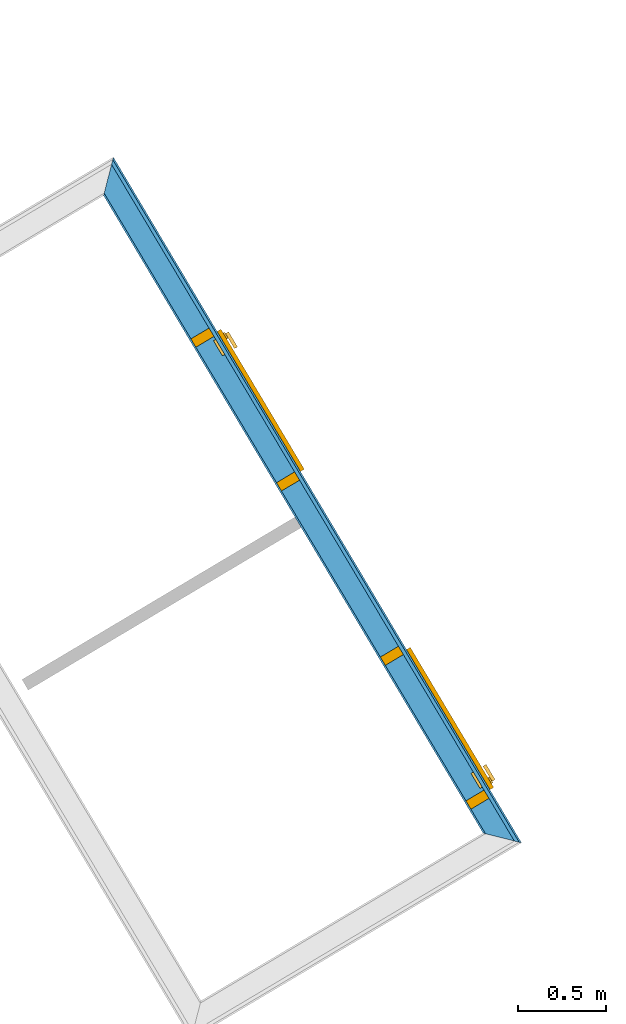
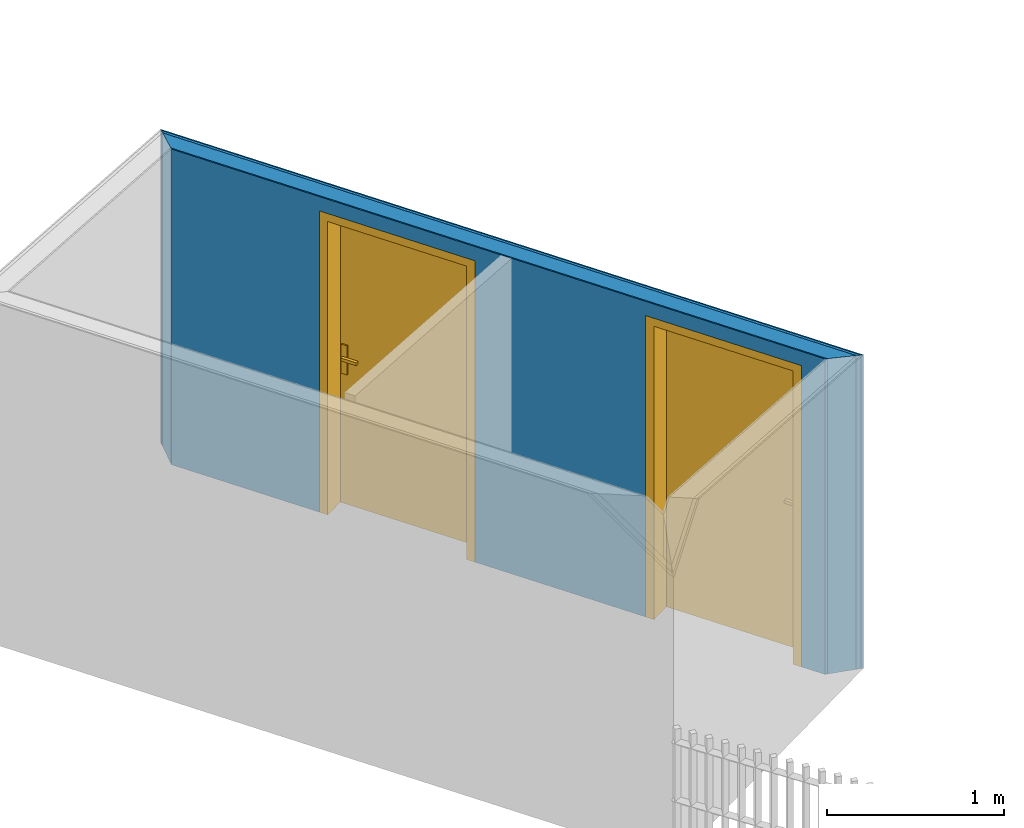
# One storey, part 115 of 195: 4 building element parts, 2 doors, 2 openings, 1 element without a shape of its own.
"""IFC2X3 building model written with IfcOpenShell, lengths in metres."""

from ifc_helpers import new_model, entity, si_unit, converted_unit, derived_unit, money_unit, direction, frame, origin_with_axes, origin_2d_with_axis, place, context, subcontext, project, spatial, polyline, rectangle, outline, extrude, boolean, faceted_brep, source, transform, mapped, material, type_object, element, fill, aggregate, save


model = new_model("IFC2X3")

# Units and contexts
model_context = context("Model", 3, precision=1e-05, world=origin_with_axes(), true_north=direction((0.0, 1.0)))
body_context = subcontext(model_context, "Body", "Model", "MODEL_VIEW")
ifc_project = project(units=[si_unit("LENGTHUNIT", "METRE"), si_unit("AREAUNIT", "SQUARE_METRE"), si_unit("VOLUMEUNIT", "CUBIC_METRE"), converted_unit("PLANEANGLEUNIT", "DEGREE", entity("IfcPlaneAngleMeasure", 0.0174532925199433), si_unit("PLANEANGLEUNIT", "RADIAN"), dimensions=[0, 0, 0, 0, 0, 0, 0]), money_unit("CHF"), converted_unit("TIMEUNIT", "Year", entity("IfcTimeMeasure", 31557600.0), si_unit("TIMEUNIT", "SECOND"), dimensions=[0, 0, 1, 0, 0, 0, 0]), si_unit("MASSUNIT", "GRAM", prefix="KILO"), si_unit("THERMODYNAMICTEMPERATUREUNIT", "DEGREE_CELSIUS"), si_unit("LUMINOUSINTENSITYUNIT", "LUMEN"), si_unit("ENERGYUNIT", "JOULE", prefix="MEGA"), derived_unit("THERMALCONDUCTANCEUNIT", [(si_unit("POWERUNIT", "WATT"), 1), (si_unit("LENGTHUNIT", "METRE"), -1), (si_unit("THERMODYNAMICTEMPERATUREUNIT", "KELVIN"), -1)]), derived_unit("SPECIFICHEATCAPACITYUNIT", [(si_unit("ENERGYUNIT", "JOULE"), 1), (si_unit("MASSUNIT", "GRAM", prefix="KILO"), -1), (si_unit("THERMODYNAMICTEMPERATUREUNIT", "KELVIN"), -1)]), derived_unit("MASSDENSITYUNIT", [(si_unit("MASSUNIT", "GRAM", prefix="KILO"), 1), (si_unit("VOLUMEUNIT", "CUBIC_METRE"), -1)])], contexts=[model_context])

# Site, building, storey
site_placement = place(None, origin_with_axes())
site = spatial("IfcSite", under=ifc_project, at=site_placement, Name="Site", CompositionType="ELEMENT")
building_placement = place(site_placement, origin_with_axes())
building = spatial("IfcBuilding", under=site, at=building_placement, Name="Bâtiment", CompositionType="ELEMENT")
storey_placement = place(building_placement, origin_with_axes())
storey = spatial("IfcBuildingStorey", under=building, at=storey_placement, Name="rdc", CompositionType="ELEMENT", Elevation=0.0)

# Door
door_style = type_object("IfcDoorStyle", Name="Porte_1v", ConstructionType="NOTDEFINED", OperationType="NOTDEFINED", ParameterTakesPrecedence=False, Sizeable=False)
shared_shape_1 = source(origin_with_axes(), body_context, "Body", "Brep", [
    faceted_brep([(0.505, 0.0, 0.0), (0.465, 0.0, 0.0), (0.465, 0.0, 2.04), (-0.465, 0.0, 2.04), (-0.465, 0.0, 0.0), (-0.505, 0.0, 0.0), (-0.505, 0.0, 2.08), (0.505, 0.0, 2.08), (0.505, -0.16, 0.0), (0.45, -0.16, 0.0), (0.45, -0.015, 0.0), (0.465, -0.015, 0.0), (0.465, -0.015, 2.04), (-0.465, -0.015, 2.04), (-0.465, -0.015, 0.0), (-0.45, -0.015, 0.0), (-0.45, -0.16, 0.0), (-0.505, -0.16, 0.0), (-0.505, -0.16, 2.08), (0.505, -0.16, 2.08), (-0.45, -0.16, 2.025), (0.45, -0.16, 2.025), (0.45, -0.015, 2.025), (-0.45, -0.015, 2.025)], [[[0, 1, 2, 3, 4, 5, 6, 7]], [[0, 8, 9, 10, 11, 1]], [[1, 11, 12, 2]], [[2, 12, 13, 3]], [[3, 13, 14, 4]], [[5, 4, 14, 15, 16, 17]], [[18, 6, 5, 17]], [[19, 7, 6, 18]], [[8, 0, 7, 19]], [[9, 8, 19, 18, 17, 16, 20, 21]], [[10, 9, 21, 22]], [[11, 10, 22, 23, 15, 14, 13, 12]], [[23, 20, 16, 15]], [[22, 21, 20, 23]]]),
    faceted_brep([(-0.4, -0.015, 0.9), (-0.44, -0.015, 0.9), (-0.44, -0.015, 1.1), (-0.4, -0.015, 1.1), (-0.4, -0.025, 0.9), (-0.44, -0.025, 0.9), (-0.44, -0.025, 1.1), (-0.4, -0.025, 1.1)], [[[0, 1, 2, 3]], [[1, 0, 4, 5]], [[2, 1, 5, 6]], [[3, 2, 6, 7]], [[0, 3, 7, 4]], [[5, 4, 7, 6]]]),
    faceted_brep([(-0.33, -0.025, 1.0), (-0.43, -0.025, 1.0), (-0.43, -0.025, 1.02), (-0.33, -0.025, 1.02), (-0.33, -0.045, 1.0), (-0.43, -0.045, 1.0), (-0.43, -0.045, 1.02), (-0.33, -0.045, 1.02)], [[[0, 1, 2, 3]], [[1, 0, 4, 5]], [[2, 1, 5, 6]], [[3, 2, 6, 7]], [[0, 3, 7, 4]], [[5, 4, 7, 6]]]),
    faceted_brep([(-0.4, 0.035, 0.9), (-0.44, 0.035, 0.9), (-0.44, 0.035, 1.1), (-0.4, 0.035, 1.1), (-0.4, 0.025, 0.9), (-0.44, 0.025, 0.9), (-0.44, 0.025, 1.1), (-0.4, 0.025, 1.1)], [[[0, 1, 2, 3]], [[1, 0, 4, 5]], [[2, 1, 5, 6]], [[3, 2, 6, 7]], [[0, 3, 7, 4]], [[5, 4, 7, 6]]]),
    faceted_brep([(-0.33, 0.05500000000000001, 1.0), (-0.43, 0.05500000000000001, 1.0), (-0.43, 0.05500000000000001, 1.02), (-0.33, 0.05500000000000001, 1.02), (-0.33, 0.035, 1.0), (-0.43, 0.035, 1.0), (-0.43, 0.035, 1.02), (-0.33, 0.035, 1.02)], [[[0, 1, 2, 3]], [[1, 0, 4, 5]], [[2, 1, 5, 6]], [[3, 2, 6, 7]], [[0, 3, 7, 4]], [[5, 4, 7, 6]]]),
    faceted_brep([(-0.465, 0.025, 0.0), (0.465, 0.025, 0.0), (0.465, -0.015, 0.0), (-0.465, -0.015, 0.0), (-0.465, 0.025, 2.04), (0.465, 0.025, 2.04), (0.465, -0.015, 2.04), (-0.465, -0.015, 2.04)], [[[0, 1, 2, 3]], [[0, 4, 5, 1]], [[1, 5, 6, 2]], [[3, 2, 6, 7]], [[4, 0, 3, 7]], [[5, 4, 7, 6]]]),
])
wall_placement = place(storey_placement, frame((9554.376120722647, -1046.530419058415, 57.7), z_axis=(0.0, 0.0, 1.0), x_axis=(0.5115364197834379, -0.859261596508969, 0.0)))
opening_1_placement = place(wall_placement, frame((1.622741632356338, 0.0, 0.0), z_axis=(0.0, 0.0, 1.0), x_axis=(1.0, 0.0, 0.0)))
door_1_placement = place(opening_1_placement, frame((-0.4649999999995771, 0.0, 0.0), z_axis=(0.0, 0.0, 1.0), x_axis=(1.0, 0.0, 0.0)))
door_1 = element("IfcDoor", 1, at=door_1_placement, inside=storey, type_object=door_style, Name="Por-300", OverallHeight=2.04, OverallWidth=0.93, context=body_context, shape_type="MappedRepresentation", body=[
    mapped(shared_shape_1, transform((0.4649999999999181, 0.0, 0.0))),
])

shared_shape_2 = source(origin_with_axes(), body_context, "Body", "Brep", [
    faceted_brep([(-0.505, 0.0, 0.0), (-0.505, 0.0, 2.08), (0.505, 0.0, 2.08), (0.505, 0.0, 0.0), (0.465, 0.0, 0.0), (0.465, 0.0, 2.04), (-0.465, 0.0, 2.04), (-0.465, 0.0, 0.0), (-0.505, -0.16, 0.0), (-0.505, -0.16, 2.08), (0.505, -0.16, 2.08), (0.505, -0.16, 0.0), (0.45, -0.16, 0.0), (0.45, -0.015, 0.0), (0.465, -0.015, 0.0), (0.465, -0.015, 2.04), (-0.465, -0.015, 2.04), (-0.465, -0.015, 0.0), (-0.45, -0.015, 0.0), (-0.45, -0.16, 0.0), (-0.45, -0.16, 2.025), (0.45, -0.16, 2.025), (0.45, -0.015, 2.025), (-0.45, -0.015, 2.025)], [[[0, 1, 2, 3, 4, 5, 6, 7]], [[8, 9, 1, 0]], [[9, 10, 2, 1]], [[10, 11, 3, 2]], [[3, 11, 12, 13, 14, 4]], [[5, 4, 14, 15]], [[6, 5, 15, 16]], [[7, 6, 16, 17]], [[0, 7, 17, 18, 19, 8]], [[19, 20, 21, 12, 11, 10, 9, 8]], [[22, 13, 12, 21]], [[17, 16, 15, 14, 13, 22, 23, 18]], [[18, 23, 20, 19]], [[23, 22, 21, 20]]]),
    faceted_brep([(0.4, -0.015, 0.9), (0.4, -0.015, 1.1), (0.44, -0.015, 1.1), (0.44, -0.015, 0.9), (0.4, -0.025, 0.9), (0.4, -0.025, 1.1), (0.44, -0.025, 1.1), (0.44, -0.025, 0.9)], [[[0, 1, 2, 3]], [[0, 4, 5, 1]], [[1, 5, 6, 2]], [[2, 6, 7, 3]], [[3, 7, 4, 0]], [[7, 6, 5, 4]]]),
    faceted_brep([(0.33, -0.025, 1.0), (0.33, -0.025, 1.02), (0.43, -0.025, 1.02), (0.43, -0.025, 1.0), (0.33, -0.045, 1.0), (0.33, -0.045, 1.02), (0.43, -0.045, 1.02), (0.43, -0.045, 1.0)], [[[0, 1, 2, 3]], [[0, 4, 5, 1]], [[1, 5, 6, 2]], [[2, 6, 7, 3]], [[3, 7, 4, 0]], [[7, 6, 5, 4]]]),
    faceted_brep([(0.4, 0.035, 0.9), (0.4, 0.035, 1.1), (0.44, 0.035, 1.1), (0.44, 0.035, 0.9), (0.4, 0.025, 0.9), (0.4, 0.025, 1.1), (0.44, 0.025, 1.1), (0.44, 0.025, 0.9)], [[[0, 1, 2, 3]], [[0, 4, 5, 1]], [[1, 5, 6, 2]], [[2, 6, 7, 3]], [[3, 7, 4, 0]], [[7, 6, 5, 4]]]),
    faceted_brep([(0.33, 0.05500000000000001, 1.0), (0.33, 0.05500000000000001, 1.02), (0.43, 0.05500000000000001, 1.02), (0.43, 0.05500000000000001, 1.0), (0.33, 0.035, 1.0), (0.33, 0.035, 1.02), (0.43, 0.035, 1.02), (0.43, 0.035, 1.0)], [[[0, 1, 2, 3]], [[0, 4, 5, 1]], [[1, 5, 6, 2]], [[2, 6, 7, 3]], [[3, 7, 4, 0]], [[7, 6, 5, 4]]]),
    faceted_brep([(0.465, 0.025, 0.0), (0.465, -0.015, 0.0), (-0.465, -0.015, 0.0), (-0.465, 0.025, 0.0), (0.465, 0.025, 2.04), (0.465, -0.015, 2.04), (-0.465, -0.015, 2.04), (-0.465, 0.025, 2.04)], [[[0, 1, 2, 3]], [[4, 5, 1, 0]], [[1, 5, 6, 2]], [[3, 2, 6, 7]], [[0, 3, 7, 4]], [[7, 6, 5, 4]]]),
])
opening_2_placement = place(wall_placement, frame((3.735890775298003, 0.0, 0.0), z_axis=(0.0, 0.0, 1.0), x_axis=(1.0, 0.0, 0.0)))
door_2_placement = place(opening_2_placement, frame((-0.4650000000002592, 0.0, 0.0), z_axis=(0.0, 0.0, 1.0), x_axis=(1.0, 0.0, 0.0)))
door_2 = element("IfcDoor", 2, at=door_2_placement, inside=storey, type_object=door_style, Name="Por-300", OverallHeight=2.04, OverallWidth=0.93, context=body_context, shape_type="MappedRepresentation", body=[
    mapped(shared_shape_2, transform((0.4650000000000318, 0.0, 0.0))),
])

# Wall, opening
wall_type = type_object("IfcWallType", Name="1/Ossatur bois 160   non isol 160", PredefinedType="NOTDEFINED")
wall = element("IfcWall", 3, at=wall_placement, inside=storey, type_object=wall_type, Name="Mur-110")
opening_1 = element("IfcOpeningElement", 4, at=opening_1_placement, cuts=wall, Name="Por-300", context=body_context, shape_type="SweptSolid", body=[
    extrude(rectangle(XDim=1.01000001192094, YDim=2.079999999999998, at=origin_2d_with_axis()), frame((5.960600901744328e-09, -0.1599999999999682, 1.039999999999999), z_axis=(0.0, 1.0, 0.0), x_axis=(1.0, 0.0, 0.0)), (0.0, 0.0, 1.0), 0.32),
])

fill(opening_1, door_1)

# Opening
opening_2 = element("IfcOpeningElement", 5, at=opening_2_placement, cuts=wall, Name="Por-300", context=body_context, shape_type="SweptSolid", body=[
    extrude(rectangle(XDim=1.01000001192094, YDim=2.079999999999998, at=origin_2d_with_axis()), frame((-5.960600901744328e-09, -0.1599999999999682, 1.039999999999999), z_axis=(0.0, -1.0, 0.0), x_axis=(-1.0, 0.0, 0.0)), (0.0, 0.0, -1.0), 0.32),
])

fill(opening_2, door_2)

# Building element part
ifc_material_1 = material(Name="Sans Trame 296962763")
building_element_part_1_placement = place(wall_placement, origin_with_axes())
building_element_part_1 = element("IfcBuildingElementPart", 6, at=building_element_part_1_placement, material=ifc_material_1, Name="Sans Trame 296962763", context=body_context, shape_type="CSG", body=[
    boolean("DIFFERENCE", boolean("DIFFERENCE", boolean("DIFFERENCE", boolean("DIFFERENCE", extrude(outline(polyline([(0.0, -0.1599999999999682), (4.554068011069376, -0.1600000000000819), (4.554068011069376, -0.1499999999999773), (0.0, -0.1499999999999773), (0.0, -0.1599999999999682)])), origin_with_axes(), (0.0, 0.0, 1.0), 2.75), faceted_brep([(0.1499999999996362, -0.1499999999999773, 2.177693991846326), (0.1499999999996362, -0.1500000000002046, 0.0), (0.0, -0.1499999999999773, 0.0), (0.0, -0.1499999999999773, 2.75), (4.554068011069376, -0.1500000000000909, 2.75), (4.554068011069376, -0.1500000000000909, 0.0), (4.403933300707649, -0.1500000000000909, 0.0), (4.403933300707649, -0.1500000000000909, 2.177359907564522), (0.1599999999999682, -0.1600000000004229, 2.178568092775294), (0.1599999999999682, -0.1600000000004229, 0.0), (0.0, -0.1599999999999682, 0.0), (0.0, -0.1599999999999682, 2.75), (4.554068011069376, -0.1600000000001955, 2.75), (4.554068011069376, -0.1600000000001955, 0.0), (4.393924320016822, -0.1600000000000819, 0.0), (4.393924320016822, -0.1600000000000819, 2.178235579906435)], [[[0, 1, 2, 3, 4, 5, 6, 7]], [[1, 0, 8, 9]], [[1, 9, 10, 2]], [[3, 2, 10, 11]], [[3, 11, 12, 4]], [[12, 13, 5, 4]], [[14, 6, 5, 13]], [[7, 6, 14, 15]], [[0, 7, 15, 8]], [[15, 14, 13, 12, 11, 10, 9, 8]]])), faceted_brep([(0.02999999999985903, -0.02999999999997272, 2.167204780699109), (0.02999999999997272, -0.0300000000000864, 0.0), (0.0, -0.02999999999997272, 0.0), (0.0, -0.02999999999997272, 2.75), (4.554068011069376, -0.02999999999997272, 2.75), (4.554068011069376, -0.02999999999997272, 0.0), (4.524041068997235, -0.02999999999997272, 0.0), (4.524041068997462, -0.02999999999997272, 2.166851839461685), (0.1499999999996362, -0.1500000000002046, 2.177693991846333), (0.1499999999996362, -0.1500000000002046, 0.0), (0.0, -0.1499999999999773, 0.0), (0.0, -0.1499999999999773, 2.75), (4.554068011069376, -0.1500000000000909, 2.75), (4.554068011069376, -0.1500000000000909, 0.0), (4.403933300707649, -0.1499999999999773, 0.0), (4.403933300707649, -0.1500000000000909, 2.177359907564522)], [[[0, 1, 2, 3, 4, 5, 6, 7]], [[1, 0, 8, 9]], [[1, 9, 10, 2]], [[3, 2, 10, 11]], [[3, 11, 12, 4]], [[12, 13, 5, 4]], [[14, 6, 5, 13]], [[7, 6, 14, 15]], [[0, 7, 15, 8]], [[15, 14, 13, 12, 11, 10, 9, 8]]])), faceted_brep([(0.009999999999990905, -0.01000000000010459, 2.165456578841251), (0.009999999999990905, -0.01000000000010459, 0.0), (0.0, -0.01000000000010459, 0.0), (0.0, -0.01000000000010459, 2.75), (4.554068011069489, -0.01000000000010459, 2.75), (4.554068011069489, -0.01000000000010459, 0.0), (4.544059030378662, -0.009999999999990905, 0.0), (4.544059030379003, -0.009999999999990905, 2.165100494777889), (0.02999999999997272, -0.0300000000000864, 2.167204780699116), (0.02999999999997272, -0.0300000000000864, 0.0), (0.0, -0.02999999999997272, 0.0), (0.0, -0.02999999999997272, 2.75), (4.554068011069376, -0.02999999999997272, 2.75), (4.554068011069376, -0.02999999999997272, 0.0), (4.524041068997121, -0.02999999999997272, 0.0), (4.524041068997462, -0.0300000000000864, 2.166851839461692)], [[[0, 1, 2, 3, 4, 5, 6, 7]], [[1, 0, 8, 9]], [[1, 9, 10, 2]], [[3, 2, 10, 11]], [[3, 11, 12, 4]], [[12, 13, 5, 4]], [[14, 6, 5, 13]], [[7, 6, 14, 15]], [[0, 7, 15, 8]], [[15, 14, 13, 12, 11, 10, 9, 8]]])), faceted_brep([(4.554068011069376, 0.0, 0.0), (4.554068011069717, 0.0, 2.164224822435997), (4.554068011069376, 0.0, 2.75), (4.554068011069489, -0.01000000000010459, 2.75), (4.554068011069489, -0.01000000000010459, 0.0), (4.544059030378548, -0.01000000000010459, 0.0), (4.544059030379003, -0.01000000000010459, 2.165100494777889), (0.0, 0.0, 2.164582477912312), (0.0, 0.0, 2.75), (0.0, -0.01000000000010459, 2.75), (0.0, -0.01000000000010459, 0.0), (0.009999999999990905, -0.01000000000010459, 0.0), (0.009999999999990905, -0.01000000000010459, 2.165456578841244), (0.0, 0.0, 0.0)], [[[0, 1, 2, 3, 4]], [[1, 0, 5, 6]], [[1, 7, 8, 2]], [[8, 9, 3, 2]], [[6, 5, 4, 3, 9, 10, 11, 12]], [[5, 0, 4]], [[7, 1, 6, 12]], [[7, 13, 10, 9, 8]], [[13, 11, 10]], [[13, 7, 12, 11]]])),
])

ifc_material_2 = material(Name="Lame d'air 275581439")
building_element_part_2_placement = place(wall_placement, origin_with_axes())
building_element_part_2 = element("IfcBuildingElementPart", 7, at=building_element_part_2_placement, material=ifc_material_2, Name="Lame d'air 275581439", context=body_context, shape_type="CSG", body=[
    boolean("DIFFERENCE", boolean("DIFFERENCE", boolean("DIFFERENCE", boolean("DIFFERENCE", extrude(outline(polyline([(0.0, -0.1499999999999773), (4.554068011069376, -0.1499999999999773), (4.554068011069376, -0.02999999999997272), (0.0, -0.02999999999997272), (0.0, -0.1499999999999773)])), origin_with_axes(), (0.0, 0.0, 1.0), 2.75), faceted_brep([(0.1499999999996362, -0.1499999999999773, 2.177693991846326), (0.1499999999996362, -0.1500000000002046, 0.0), (0.0, -0.1499999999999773, 0.0), (0.0, -0.1499999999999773, 2.75), (4.554068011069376, -0.1500000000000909, 2.75), (4.554068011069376, -0.1500000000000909, 0.0), (4.403933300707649, -0.1500000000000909, 0.0), (4.403933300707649, -0.1500000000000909, 2.177359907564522), (0.1599999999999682, -0.1600000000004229, 2.178568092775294), (0.1599999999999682, -0.1600000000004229, 0.0), (0.0, -0.1599999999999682, 0.0), (0.0, -0.1599999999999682, 2.75), (4.554068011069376, -0.1600000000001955, 2.75), (4.554068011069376, -0.1600000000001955, 0.0), (4.393924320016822, -0.1600000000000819, 0.0), (4.393924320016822, -0.1600000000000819, 2.178235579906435)], [[[0, 1, 2, 3, 4, 5, 6, 7]], [[1, 0, 8, 9]], [[1, 9, 10, 2]], [[3, 2, 10, 11]], [[3, 11, 12, 4]], [[12, 13, 5, 4]], [[14, 6, 5, 13]], [[7, 6, 14, 15]], [[0, 7, 15, 8]], [[15, 14, 13, 12, 11, 10, 9, 8]]])), faceted_brep([(0.02999999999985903, -0.02999999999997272, 2.167204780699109), (0.02999999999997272, -0.0300000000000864, 0.0), (0.0, -0.02999999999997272, 0.0), (0.0, -0.02999999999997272, 2.75), (4.554068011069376, -0.02999999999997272, 2.75), (4.554068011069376, -0.02999999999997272, 0.0), (4.524041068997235, -0.02999999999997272, 0.0), (4.524041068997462, -0.02999999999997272, 2.166851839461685), (0.1499999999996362, -0.1500000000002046, 2.177693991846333), (0.1499999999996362, -0.1500000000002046, 0.0), (0.0, -0.1499999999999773, 0.0), (0.0, -0.1499999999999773, 2.75), (4.554068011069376, -0.1500000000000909, 2.75), (4.554068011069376, -0.1500000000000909, 0.0), (4.403933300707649, -0.1499999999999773, 0.0), (4.403933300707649, -0.1500000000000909, 2.177359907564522)], [[[0, 1, 2, 3, 4, 5, 6, 7]], [[1, 0, 8, 9]], [[1, 9, 10, 2]], [[3, 2, 10, 11]], [[3, 11, 12, 4]], [[12, 13, 5, 4]], [[14, 6, 5, 13]], [[7, 6, 14, 15]], [[0, 7, 15, 8]], [[15, 14, 13, 12, 11, 10, 9, 8]]])), faceted_brep([(0.009999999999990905, -0.01000000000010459, 2.165456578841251), (0.009999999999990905, -0.01000000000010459, 0.0), (0.0, -0.01000000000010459, 0.0), (0.0, -0.01000000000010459, 2.75), (4.554068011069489, -0.01000000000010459, 2.75), (4.554068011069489, -0.01000000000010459, 0.0), (4.544059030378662, -0.009999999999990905, 0.0), (4.544059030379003, -0.009999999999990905, 2.165100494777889), (0.02999999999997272, -0.0300000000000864, 2.167204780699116), (0.02999999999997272, -0.0300000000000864, 0.0), (0.0, -0.02999999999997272, 0.0), (0.0, -0.02999999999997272, 2.75), (4.554068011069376, -0.02999999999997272, 2.75), (4.554068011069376, -0.02999999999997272, 0.0), (4.524041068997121, -0.02999999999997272, 0.0), (4.524041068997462, -0.0300000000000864, 2.166851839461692)], [[[0, 1, 2, 3, 4, 5, 6, 7]], [[1, 0, 8, 9]], [[1, 9, 10, 2]], [[3, 2, 10, 11]], [[3, 11, 12, 4]], [[12, 13, 5, 4]], [[14, 6, 5, 13]], [[7, 6, 14, 15]], [[0, 7, 15, 8]], [[15, 14, 13, 12, 11, 10, 9, 8]]])), faceted_brep([(4.554068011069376, 0.0, 0.0), (4.554068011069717, 0.0, 2.164224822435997), (4.554068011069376, 0.0, 2.75), (4.554068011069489, -0.01000000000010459, 2.75), (4.554068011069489, -0.01000000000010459, 0.0), (4.544059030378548, -0.01000000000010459, 0.0), (4.544059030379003, -0.01000000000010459, 2.165100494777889), (0.0, 0.0, 2.164582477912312), (0.0, 0.0, 2.75), (0.0, -0.01000000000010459, 2.75), (0.0, -0.01000000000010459, 0.0), (0.009999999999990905, -0.01000000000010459, 0.0), (0.009999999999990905, -0.01000000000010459, 2.165456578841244), (0.0, 0.0, 0.0)], [[[0, 1, 2, 3, 4]], [[1, 0, 5, 6]], [[1, 7, 8, 2]], [[8, 9, 3, 2]], [[6, 5, 4, 3, 9, 10, 11, 12]], [[5, 0, 4]], [[7, 1, 6, 12]], [[7, 13, 10, 9, 8]], [[13, 11, 10]], [[13, 7, 12, 11]]])),
])

ifc_material_3 = material(Name="Hachure solide 323202122")
building_element_part_3_placement = place(wall_placement, origin_with_axes())
building_element_part_3 = element("IfcBuildingElementPart", 8, at=building_element_part_3_placement, material=ifc_material_3, Name="Hachure solide 323202122", context=body_context, shape_type="CSG", body=[
    boolean("DIFFERENCE", boolean("DIFFERENCE", boolean("DIFFERENCE", boolean("DIFFERENCE", extrude(outline(polyline([(0.0, -0.009999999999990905), (4.554068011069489, -0.009999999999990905), (4.554068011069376, 0.0), (0.0, 0.0), (0.0, -0.009999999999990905)])), origin_with_axes(), (0.0, 0.0, 1.0), 2.75), faceted_brep([(0.1499999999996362, -0.1499999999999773, 2.177693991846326), (0.1499999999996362, -0.1500000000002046, 0.0), (0.0, -0.1499999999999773, 0.0), (0.0, -0.1499999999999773, 2.75), (4.554068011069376, -0.1500000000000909, 2.75), (4.554068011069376, -0.1500000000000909, 0.0), (4.403933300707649, -0.1500000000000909, 0.0), (4.403933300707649, -0.1500000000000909, 2.177359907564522), (0.1599999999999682, -0.1600000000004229, 2.178568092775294), (0.1599999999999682, -0.1600000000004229, 0.0), (0.0, -0.1599999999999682, 0.0), (0.0, -0.1599999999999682, 2.75), (4.554068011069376, -0.1600000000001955, 2.75), (4.554068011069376, -0.1600000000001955, 0.0), (4.393924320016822, -0.1600000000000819, 0.0), (4.393924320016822, -0.1600000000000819, 2.178235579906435)], [[[0, 1, 2, 3, 4, 5, 6, 7]], [[1, 0, 8, 9]], [[1, 9, 10, 2]], [[3, 2, 10, 11]], [[3, 11, 12, 4]], [[12, 13, 5, 4]], [[14, 6, 5, 13]], [[7, 6, 14, 15]], [[0, 7, 15, 8]], [[15, 14, 13, 12, 11, 10, 9, 8]]])), faceted_brep([(0.02999999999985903, -0.02999999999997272, 2.167204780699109), (0.02999999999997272, -0.0300000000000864, 0.0), (0.0, -0.02999999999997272, 0.0), (0.0, -0.02999999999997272, 2.75), (4.554068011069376, -0.02999999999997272, 2.75), (4.554068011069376, -0.02999999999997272, 0.0), (4.524041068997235, -0.02999999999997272, 0.0), (4.524041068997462, -0.02999999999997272, 2.166851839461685), (0.1499999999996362, -0.1500000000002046, 2.177693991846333), (0.1499999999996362, -0.1500000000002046, 0.0), (0.0, -0.1499999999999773, 0.0), (0.0, -0.1499999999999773, 2.75), (4.554068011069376, -0.1500000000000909, 2.75), (4.554068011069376, -0.1500000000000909, 0.0), (4.403933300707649, -0.1499999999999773, 0.0), (4.403933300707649, -0.1500000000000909, 2.177359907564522)], [[[0, 1, 2, 3, 4, 5, 6, 7]], [[1, 0, 8, 9]], [[1, 9, 10, 2]], [[3, 2, 10, 11]], [[3, 11, 12, 4]], [[12, 13, 5, 4]], [[14, 6, 5, 13]], [[7, 6, 14, 15]], [[0, 7, 15, 8]], [[15, 14, 13, 12, 11, 10, 9, 8]]])), faceted_brep([(0.009999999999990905, -0.01000000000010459, 2.165456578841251), (0.009999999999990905, -0.01000000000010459, 0.0), (0.0, -0.01000000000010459, 0.0), (0.0, -0.01000000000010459, 2.75), (4.554068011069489, -0.01000000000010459, 2.75), (4.554068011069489, -0.01000000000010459, 0.0), (4.544059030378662, -0.009999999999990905, 0.0), (4.544059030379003, -0.009999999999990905, 2.165100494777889), (0.02999999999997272, -0.0300000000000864, 2.167204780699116), (0.02999999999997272, -0.0300000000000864, 0.0), (0.0, -0.02999999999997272, 0.0), (0.0, -0.02999999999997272, 2.75), (4.554068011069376, -0.02999999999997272, 2.75), (4.554068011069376, -0.02999999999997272, 0.0), (4.524041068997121, -0.02999999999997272, 0.0), (4.524041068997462, -0.0300000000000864, 2.166851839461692)], [[[0, 1, 2, 3, 4, 5, 6, 7]], [[1, 0, 8, 9]], [[1, 9, 10, 2]], [[3, 2, 10, 11]], [[3, 11, 12, 4]], [[12, 13, 5, 4]], [[14, 6, 5, 13]], [[7, 6, 14, 15]], [[0, 7, 15, 8]], [[15, 14, 13, 12, 11, 10, 9, 8]]])), faceted_brep([(4.554068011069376, 0.0, 0.0), (4.554068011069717, 0.0, 2.164224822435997), (4.554068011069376, 0.0, 2.75), (4.554068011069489, -0.01000000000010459, 2.75), (4.554068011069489, -0.01000000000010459, 0.0), (4.544059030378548, -0.01000000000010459, 0.0), (4.544059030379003, -0.01000000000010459, 2.165100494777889), (0.0, 0.0, 2.164582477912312), (0.0, 0.0, 2.75), (0.0, -0.01000000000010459, 2.75), (0.0, -0.01000000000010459, 0.0), (0.009999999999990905, -0.01000000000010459, 0.0), (0.009999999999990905, -0.01000000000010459, 2.165456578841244), (0.0, 0.0, 0.0)], [[[0, 1, 2, 3, 4]], [[1, 0, 5, 6]], [[1, 7, 8, 2]], [[8, 9, 3, 2]], [[6, 5, 4, 3, 9, 10, 11, 12]], [[5, 0, 4]], [[7, 1, 6, 12]], [[7, 13, 10, 9, 8]], [[13, 11, 10]], [[13, 7, 12, 11]]])),
])

ifc_material_4 = material(Name="Lame d'air 323202302")
building_element_part_4_placement = place(wall_placement, origin_with_axes())
building_element_part_4 = element("IfcBuildingElementPart", 9, at=building_element_part_4_placement, material=ifc_material_4, Name="Lame d'air 323202302", context=body_context, shape_type="CSG", body=[
    boolean("DIFFERENCE", boolean("DIFFERENCE", boolean("DIFFERENCE", boolean("DIFFERENCE", extrude(outline(polyline([(0.0, -0.02999999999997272), (4.554068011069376, -0.02999999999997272), (4.554068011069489, -0.009999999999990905), (0.0, -0.009999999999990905), (0.0, -0.02999999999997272)])), origin_with_axes(), (0.0, 0.0, 1.0), 2.75), faceted_brep([(0.1499999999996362, -0.1499999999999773, 2.177693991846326), (0.1499999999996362, -0.1500000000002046, 0.0), (0.0, -0.1499999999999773, 0.0), (0.0, -0.1499999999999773, 2.75), (4.554068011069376, -0.1500000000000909, 2.75), (4.554068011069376, -0.1500000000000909, 0.0), (4.403933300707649, -0.1500000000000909, 0.0), (4.403933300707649, -0.1500000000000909, 2.177359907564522), (0.1599999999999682, -0.1600000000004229, 2.178568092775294), (0.1599999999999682, -0.1600000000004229, 0.0), (0.0, -0.1599999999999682, 0.0), (0.0, -0.1599999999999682, 2.75), (4.554068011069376, -0.1600000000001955, 2.75), (4.554068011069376, -0.1600000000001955, 0.0), (4.393924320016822, -0.1600000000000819, 0.0), (4.393924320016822, -0.1600000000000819, 2.178235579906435)], [[[0, 1, 2, 3, 4, 5, 6, 7]], [[1, 0, 8, 9]], [[1, 9, 10, 2]], [[3, 2, 10, 11]], [[3, 11, 12, 4]], [[12, 13, 5, 4]], [[14, 6, 5, 13]], [[7, 6, 14, 15]], [[0, 7, 15, 8]], [[15, 14, 13, 12, 11, 10, 9, 8]]])), faceted_brep([(0.02999999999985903, -0.02999999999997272, 2.167204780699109), (0.02999999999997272, -0.0300000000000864, 0.0), (0.0, -0.02999999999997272, 0.0), (0.0, -0.02999999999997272, 2.75), (4.554068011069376, -0.02999999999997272, 2.75), (4.554068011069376, -0.02999999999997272, 0.0), (4.524041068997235, -0.02999999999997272, 0.0), (4.524041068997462, -0.02999999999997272, 2.166851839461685), (0.1499999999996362, -0.1500000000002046, 2.177693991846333), (0.1499999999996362, -0.1500000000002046, 0.0), (0.0, -0.1499999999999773, 0.0), (0.0, -0.1499999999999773, 2.75), (4.554068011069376, -0.1500000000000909, 2.75), (4.554068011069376, -0.1500000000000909, 0.0), (4.403933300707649, -0.1499999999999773, 0.0), (4.403933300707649, -0.1500000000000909, 2.177359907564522)], [[[0, 1, 2, 3, 4, 5, 6, 7]], [[1, 0, 8, 9]], [[1, 9, 10, 2]], [[3, 2, 10, 11]], [[3, 11, 12, 4]], [[12, 13, 5, 4]], [[14, 6, 5, 13]], [[7, 6, 14, 15]], [[0, 7, 15, 8]], [[15, 14, 13, 12, 11, 10, 9, 8]]])), faceted_brep([(0.009999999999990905, -0.01000000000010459, 2.165456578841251), (0.009999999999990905, -0.01000000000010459, 0.0), (0.0, -0.01000000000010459, 0.0), (0.0, -0.01000000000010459, 2.75), (4.554068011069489, -0.01000000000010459, 2.75), (4.554068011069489, -0.01000000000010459, 0.0), (4.544059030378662, -0.009999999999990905, 0.0), (4.544059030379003, -0.009999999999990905, 2.165100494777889), (0.02999999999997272, -0.0300000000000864, 2.167204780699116), (0.02999999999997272, -0.0300000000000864, 0.0), (0.0, -0.02999999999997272, 0.0), (0.0, -0.02999999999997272, 2.75), (4.554068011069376, -0.02999999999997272, 2.75), (4.554068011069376, -0.02999999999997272, 0.0), (4.524041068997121, -0.02999999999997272, 0.0), (4.524041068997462, -0.0300000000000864, 2.166851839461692)], [[[0, 1, 2, 3, 4, 5, 6, 7]], [[1, 0, 8, 9]], [[1, 9, 10, 2]], [[3, 2, 10, 11]], [[3, 11, 12, 4]], [[12, 13, 5, 4]], [[14, 6, 5, 13]], [[7, 6, 14, 15]], [[0, 7, 15, 8]], [[15, 14, 13, 12, 11, 10, 9, 8]]])), faceted_brep([(4.554068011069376, 0.0, 0.0), (4.554068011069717, 0.0, 2.164224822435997), (4.554068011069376, 0.0, 2.75), (4.554068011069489, -0.01000000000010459, 2.75), (4.554068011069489, -0.01000000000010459, 0.0), (4.544059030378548, -0.01000000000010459, 0.0), (4.544059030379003, -0.01000000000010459, 2.165100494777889), (0.0, 0.0, 2.164582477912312), (0.0, 0.0, 2.75), (0.0, -0.01000000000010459, 2.75), (0.0, -0.01000000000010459, 0.0), (0.009999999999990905, -0.01000000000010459, 0.0), (0.009999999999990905, -0.01000000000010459, 2.165456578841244), (0.0, 0.0, 0.0)], [[[0, 1, 2, 3, 4]], [[1, 0, 5, 6]], [[1, 7, 8, 2]], [[8, 9, 3, 2]], [[6, 5, 4, 3, 9, 10, 11, 12]], [[5, 0, 4]], [[7, 1, 6, 12]], [[7, 13, 10, 9, 8]], [[13, 11, 10]], [[13, 7, 12, 11]]])),
])

aggregate(wall, [building_element_part_1, building_element_part_2, building_element_part_3, building_element_part_4])

save(model, "model.ifc")
